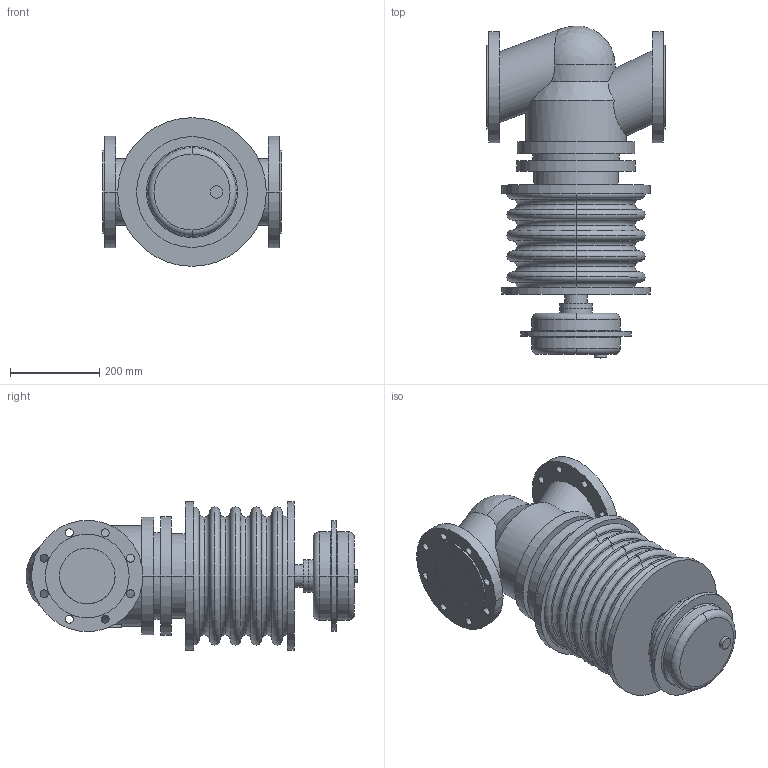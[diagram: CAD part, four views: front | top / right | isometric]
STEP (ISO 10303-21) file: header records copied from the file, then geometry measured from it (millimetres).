
FILE_DESCRIPTION( ( '' ), '1' );
FILE_NAME( 'F:/DE-SHS/TB/OR/04-Sonstiges/daten/files_3d/PREDU/PREDU-PN16-DMA250/c000005360.stp', '2014-06-03T11:13:53', ( '' ), ( '' ), ' ', ' ', ' ' );
FILE_SCHEMA( ( 'CONFIG_CONTROL_DESIGN' ) );
Length unit declared in the file: millimetre
Products named in the file (2): 1; 2
Bounding box: 400 x 745.56 x 334 mm (x, y, z)
Volume: 37020474.7 mm3; surface area: 1279801.6 mm2
Topology: 2 solids, 2 shells, 185 faces, 468 edges, 308 vertices
Faces by surface type: cylinder 80, torus 44, plane 40, cone 20, sphere 1
Entity records: 6418 total; most frequent: CARTESIAN_POINT 1518, DIRECTION 1147, ORIENTED_EDGE 932, AXIS2_PLACEMENT_3D 508, EDGE_CURVE 466, CIRCLE 315, VERTEX_POINT 308, EDGE_LOOP 240
